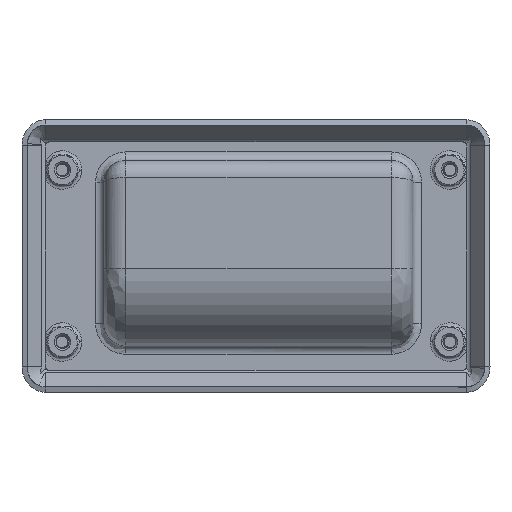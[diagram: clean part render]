
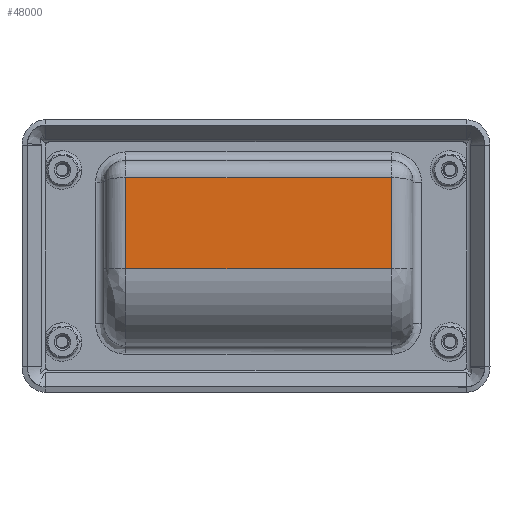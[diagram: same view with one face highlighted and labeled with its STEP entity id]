
A CAD part, top view. The second image highlights one B-rep face of the part: STEP entity #48000.
In plain terms, the highlighted planar face has unit normal (0, 0, 1).
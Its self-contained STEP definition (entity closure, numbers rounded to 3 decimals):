
#6463 = FACE_OUTER_BOUND ( 'NONE', #48087, .T. ) ;
#6991 = PLANE ( 'NONE',  #7087 ) ;
#7021 = DIRECTION ( 'NONE',  ( 0., 0., 1. ) ) ;
#7024 = DIRECTION ( 'NONE',  ( 1., 0., 0. ) ) ;
#7053 = DIRECTION ( 'NONE',  ( -1., 0., 0. ) ) ;
#7055 = VECTOR ( 'NONE', #7053, 1000. ) ;
#7087 = AXIS2_PLACEMENT_3D ( 'NONE', #7215, #7021, #7024 ) ;
#7090 = LINE ( 'NONE', #7194, #7055 ) ;
#7194 = CARTESIAN_POINT ( 'NONE',  ( 23.214, 29., 15.1 ) ) ;
#7215 = CARTESIAN_POINT ( 'NONE',  ( 55.35, 39.6, 15.1 ) ) ;
#13756 = CARTESIAN_POINT ( 'NONE',  ( 86.25, 50.2, 15.1 ) ) ;
#13915 = CARTESIAN_POINT ( 'NONE',  ( 86.25, 50.2, 15.1 ) ) ;
#13916 = CARTESIAN_POINT ( 'NONE',  ( 86.25, 43.133, 15.1 ) ) ;
#13917 = CARTESIAN_POINT ( 'NONE',  ( 86.25, 36.067, 15.1 ) ) ;
#13925 = CARTESIAN_POINT ( 'NONE',  ( 55.35, 50.2, 15.1 ) ) ;
#13926 = B_SPLINE_CURVE_WITH_KNOTS ( 'NONE', 3,
 ( #13974, #13917, #13916, #13915 ),
 .UNSPECIFIED., .F., .F.,
 ( 4, 4 ),
 ( 0., 1. ),
 .UNSPECIFIED. ) ;
#13941 = LINE ( 'NONE', #13925, #13969 ) ;
#13960 = CARTESIAN_POINT ( 'NONE',  ( 86.25, 29., 15.1 ) ) ;
#13963 = CARTESIAN_POINT ( 'NONE',  ( 24.45, 50.624, 15.1 ) ) ;
#13964 = LINE ( 'NONE', #13963, #14004 ) ;
#13968 = CARTESIAN_POINT ( 'NONE',  ( 24.45, 50.2, 15.1 ) ) ;
#13969 = VECTOR ( 'NONE', #14000, 1000. ) ;
#13971 = DIRECTION ( 'NONE',  ( 0., 1., 0. ) ) ;
#13974 = CARTESIAN_POINT ( 'NONE',  ( 86.25, 29., 15.1 ) ) ;
#13975 = CARTESIAN_POINT ( 'NONE',  ( 24.45, 29., 15.1 ) ) ;
#14000 = DIRECTION ( 'NONE',  ( -1., 0., 0. ) ) ;
#14004 = VECTOR ( 'NONE', #13971, 1000. ) ;
#48000 = ADVANCED_FACE ( 'NONE', ( #6463 ), #6991, .T. ) ;
#48001 = ORIENTED_EDGE ( 'NONE', *, *, #48002, .F. ) ;
#48002 = EDGE_CURVE ( 'NONE', #48098, #48107, #7090, .T. ) ;
#48032 = ORIENTED_EDGE ( 'NONE', *, *, #48106, .T. ) ;
#48074 = VERTEX_POINT ( 'NONE', #13756 ) ;
#48082 = EDGE_CURVE ( 'NONE', #48107, #48083, #13964, .T. ) ;
#48083 = VERTEX_POINT ( 'NONE', #13968 ) ;
#48086 = ORIENTED_EDGE ( 'NONE', *, *, #48102, .T. ) ;
#48087 = EDGE_LOOP ( 'NONE', ( #48105, #48001, #48086, #48032 ) ) ;
#48098 = VERTEX_POINT ( 'NONE', #13960 ) ;
#48102 = EDGE_CURVE ( 'NONE', #48098, #48074, #13926, .T. ) ;
#48105 = ORIENTED_EDGE ( 'NONE', *, *, #48082, .F. ) ;
#48106 = EDGE_CURVE ( 'NONE', #48074, #48083, #13941, .T. ) ;
#48107 = VERTEX_POINT ( 'NONE', #13975 ) ;
